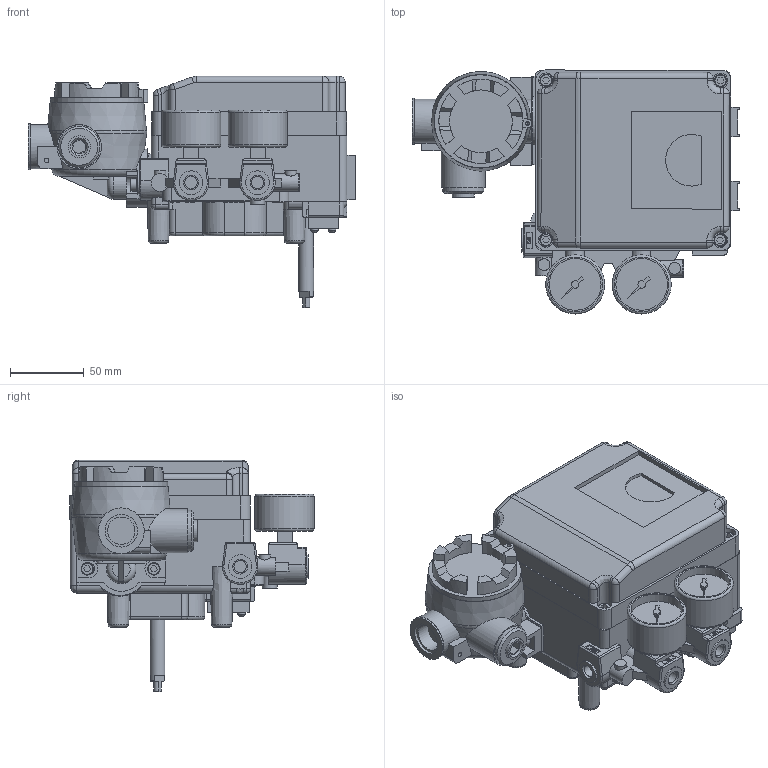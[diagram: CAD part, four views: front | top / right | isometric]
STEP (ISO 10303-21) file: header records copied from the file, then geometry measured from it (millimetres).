
FILE_DESCRIPTION(('Open CASCADE Model'),'2;1');
FILE_NAME('Open CASCADE Shape Model','2022-07-19T07:38:43',('Author'),( 'Open CASCADE'),'Open CASCADE STEP processor 7.3','Open CASCADE 7.3' ,'Unknown');
FILE_SCHEMA(('AUTOMOTIVE_DESIGN { 1 0 10303 214 1 1 1 1 }'));
Length unit declared in the file: millimetre
Products named in the file (74): Open CASCADE STEP translator 7.3 1; Open CASCADE STEP translator 7.3 1.1; Open CASCADE STEP translator 7.3 1.1.1; Open CASCADE STEP translator 7.3 1.1.2; Open CASCADE STEP translator 7.3 1.1.3; Open CASCADE STEP translator 7.3 1.1.4; Open CASCADE STEP translator 7.3 1.1.5; Open CASCADE STEP translator 7.3 1.1.6; Open CASCADE STEP translator 7.3 1.1.7; Open CASCADE STEP translator 7.3 1.1.8; Open CASCADE STEP translator 7.3 1.1.9; Open CASCADE STEP translator 7.3 1.1.10; Open CASCADE STEP translator 7.3 1.1.11; Open CASCADE STEP translator 7.3 1.1.12; Open CASCADE STEP translator 7.3 1.1.13; Open CASCADE STEP translator 7.3 1.1.14; Open CASCADE STEP translator 7.3 1.1.15; Open CASCADE STEP translator 7.3 1.1.16; Open CASCADE STEP translator 7.3 1.1.17; Open CASCADE STEP translator 7.3 1.1.18; Open CASCADE STEP translator 7.3 1.1.19; Open CASCADE STEP translator 7.3 1.1.20; Open CASCADE STEP translator 7.3 1.1.21; Open CASCADE STEP translator 7.3 1.1.22; Open CASCADE STEP translator 7.3 1.1.23; Open CASCADE STEP translator 7.3 1.1.24; Open CASCADE STEP translator 7.3 1.1.25; Open CASCADE STEP translator 7.3 1.1.26; Open CASCADE STEP translator 7.3 1.1.27; Open CASCADE STEP translator 7.3 1.1.28; Open CASCADE STEP translator 7.3 1.1.29; Open CASCADE STEP translator 7.3 1.1.30; Open CASCADE STEP translator 7.3 1.1.31; Open CASCADE STEP translator 7.3 1.1.32; Open CASCADE STEP translator 7.3 1.1.33; Open CASCADE STEP translator 7.3 1.1.34; Open CASCADE STEP translator 7.3 1.1.35; Open CASCADE STEP translator 7.3 1.1.36; Open CASCADE STEP translator 7.3 1.1.37; Open CASCADE STEP translator 7.3 1.1.38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
Assembly tree (73 placements, depth 3):
  Open CASCADE STEP translator 7.3 1
    Open CASCADE STEP translator 7.3 1.1
      Open CASCADE STEP translator 7.3 1.1.1
      Open CASCADE STEP translator 7.3 1.1.2
      Open CASCADE STEP translator 7.3 1.1.3
      Open CASCADE STEP translator 7.3 1.1.4
      Open CASCADE STEP translator 7.3 1.1.5
      Open CASCADE STEP translator 7.3 1.1.6
      Open CASCADE STEP translator 7.3 1.1.7
      Open CASCADE STEP translator 7.3 1.1.8
      Open CASCADE STEP translator 7.3 1.1.9
      Open CASCADE STEP translator 7.3 1.1.10
      Open CASCADE STEP translator 7.3 1.1.11
      Open CASCADE STEP translator 7.3 1.1.12
      Open CASCADE STEP translator 7.3 1.1.13
      Open CASCADE STEP translator 7.3 1.1.14
      Open CASCADE STEP translator 7.3 1.1.15
      Open CASCADE STEP translator 7.3 1.1.16
      Open CASCADE STEP translator 7.3 1.1.17
      Open CASCADE STEP translator 7.3 1.1.18
      Open CASCADE STEP translator 7.3 1.1.19
      Open CASCADE STEP translator 7.3 1.1.20
      Open CASCADE STEP translator 7.3 1.1.21
      Open CASCADE STEP translator 7.3 1.1.22
      Open CASCADE STEP translator 7.3 1.1.23
      Open CASCADE STEP translator 7.3 1.1.24
      Open CASCADE STEP translator 7.3 1.1.25
      Open CASCADE STEP translator 7.3 1.1.26
      Open CASCADE STEP translator 7.3 1.1.27
      Open CASCADE STEP translator 7.3 1.1.28
      Open CASCADE STEP translator 7.3 1.1.29
      Open CASCADE STEP translator 7.3 1.1.30
      Open CASCADE STEP translator 7.3 1.1.31
      Open CASCADE STEP translator 7.3 1.1.32
      Open CASCADE STEP translator 7.3 1.1.33
      Open CASCADE STEP translator 7.3 1.1.34
      Open CASCADE STEP translator 7.3 1.1.35
      Open CASCADE STEP translator 7.3 1.1.36
      Open CASCADE STEP translator 7.3 1.1.37
      Open CASCADE STEP translator 7.3 1.1.38
      Open CASCADE STEP translator 7.3 1.1.39
      Open CASCADE STEP translator 7.3 1.1.40
      Open CASCADE STEP translator 7.3 1.1.41
      Open CASCADE STEP translator 7.3 1.1.42
      Open CASCADE STEP translator 7.3 1.1.43
      Open CASCADE STEP translator 7.3 1.1.44
      Open CASCADE STEP translator 7.3 1.1.45
      Open CASCADE STEP translator 7.3 1.1.46
      Open CASCADE STEP translator 7.3 1.1.47
      Open CASCADE STEP translator 7.3 1.1.48
      Open CASCADE STEP translator 7.3 1.1.49
      Open CASCADE STEP translator 7.3 1.1.50
      Open CASCADE STEP translator 7.3 1.1.51
      Open CASCADE STEP translator 7.3 1.1.52
      Open CASCADE STEP translator 7.3 1.1.53
      Open CASCADE STEP translator 7.3 1.1.54
      Open CASCADE STEP translator 7.3 1.1.55
    Open CASCADE STEP translator 7.3 1.2
    Open CASCADE STEP translator 7.3 1.3
    Open CASCADE STEP translator 7.3 1.4
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Bounding box: 221.7 x 165.21 x 156.7 mm (x, y, z)
Volume: 1092119.5 mm3; surface area: 517933.2 mm2
Topology: 72 solids, 74 shells, 3538 faces, 8837 edges, 5746 vertices
Faces by surface type: plane 2125, cylinder 945, cone 243, torus 127, extrusion 40, sphere 38, bspline 20
Full cylindrical faces by diameter (mm): 1 x2, 2 x3, 2.1 x5, 2.459 x7, 2.5 x3, 2.781 x2, 2.8 x2, 2.9 x2, 3 x30, 3.1 x4, 3.2 x6, 3.242 x28, 3.4 x2, 3.459 x2, 3.5 x6, 3.9 x3, 4 x30, 4.1 x1, 4.134 x18, 4.2 x18, 4.5 x6, 4.6 x1, 4.8 x4, 4.918 x10, 5 x16, 5.7 x1, 5.9 x4, 6 x23, 6.5 x1, 6.647 x16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
Entity records: 267620 total; most frequent: CARTESIAN_POINT 89738, DIRECTION 32803, VECTOR 17971, LINE 17931, ORIENTED_EDGE 17628, PCURVE 17622, DEFINITIONAL_REPRESENTATION 17622, EDGE_CURVE 8811
